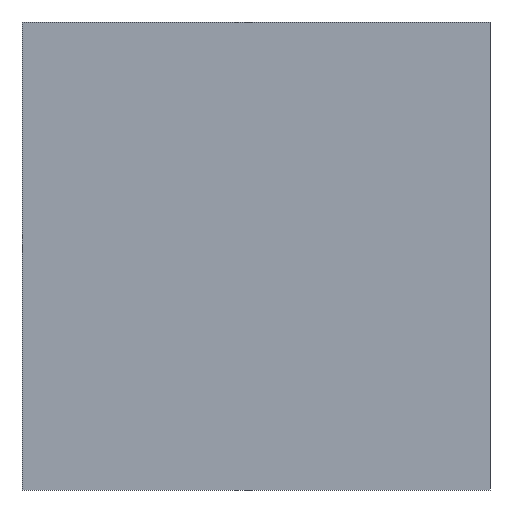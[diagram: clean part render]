
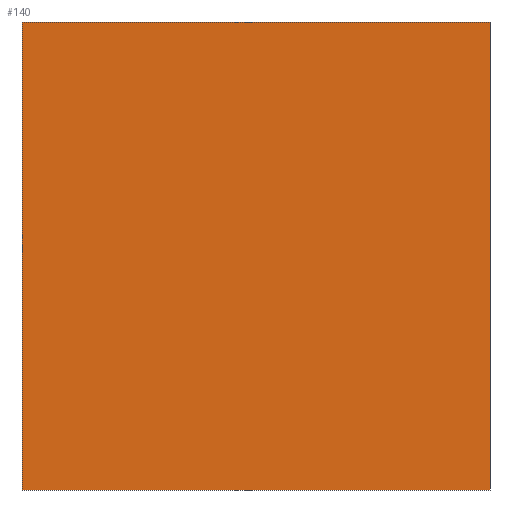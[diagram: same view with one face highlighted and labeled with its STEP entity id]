
A CAD part, left-side view. The second image highlights one B-rep face of the part: STEP entity #140.
In plain terms, the highlighted planar face has unit normal (-1, 0, 0).
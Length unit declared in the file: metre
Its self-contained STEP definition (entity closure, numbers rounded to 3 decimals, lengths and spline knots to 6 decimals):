
#20=ORIENTED_EDGE('',*,*,#55,.T.);
#21=ORIENTED_EDGE('',*,*,#56,.T.);
#22=ORIENTED_EDGE('',*,*,#57,.F.);
#23=ORIENTED_EDGE('',*,*,#53,.F.);
#53=EDGE_CURVE('',#70,#71,#83,.F.);
#55=EDGE_CURVE('',#70,#72,#85,.T.);
#56=EDGE_CURVE('',#72,#73,#86,.F.);
#57=EDGE_CURVE('',#71,#73,#87,.F.);
#70=VERTEX_POINT('',#207);
#71=VERTEX_POINT('',#209);
#72=VERTEX_POINT('',#213);
#73=VERTEX_POINT('',#215);
#83=LINE('',#208,#101);
#85=LINE('',#212,#103);
#86=LINE('',#214,#104);
#87=LINE('',#216,#105);
#101=VECTOR('',#170,1.);
#103=VECTOR('',#174,1.);
#104=VECTOR('',#175,1.);
#105=VECTOR('',#176,1.);
#116=EDGE_LOOP('',(#20,#21,#22,#23));
#124=FACE_BOUND('',#116,.T.);
#132=PLANE('',#153);
#140=ADVANCED_FACE('',(#124),#132,.F.);
#153=AXIS2_PLACEMENT_3D('',#211,#172,#173);
#170=DIRECTION('',(0.,-1.,0.));
#172=DIRECTION('',(1.,0.,0.));
#173=DIRECTION('',(0.,0.,1.));
#174=DIRECTION('',(0.,0.,1.));
#175=DIRECTION('',(0.,-1.,0.));
#176=DIRECTION('',(0.,0.,-1.));
#207=CARTESIAN_POINT('',(-0.023888,-0.0005,-0.031));
#208=CARTESIAN_POINT('',(-0.023888,-0.0005,-0.031));
#209=CARTESIAN_POINT('',(-0.023888,0.0005,-0.031));
#211=CARTESIAN_POINT('',(-0.023888,-0.0005,-0.031));
#212=CARTESIAN_POINT('',(-0.023888,-0.0005,-0.031));
#213=CARTESIAN_POINT('',(-0.023888,-0.0005,-0.03));
#214=CARTESIAN_POINT('',(-0.023888,-0.0005,-0.03));
#215=CARTESIAN_POINT('',(-0.023888,0.0005,-0.03));
#216=CARTESIAN_POINT('',(-0.023888,0.0005,-0.030359));
